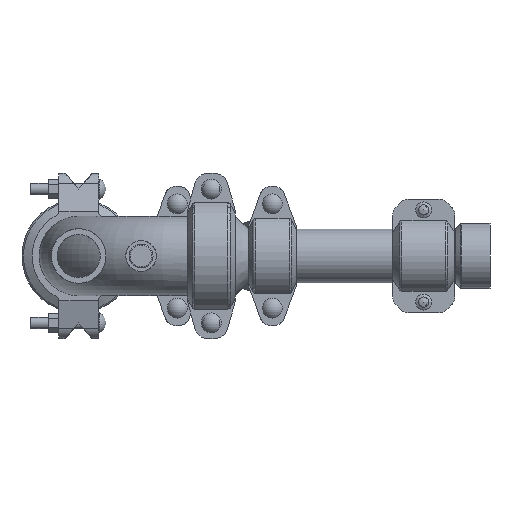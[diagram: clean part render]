
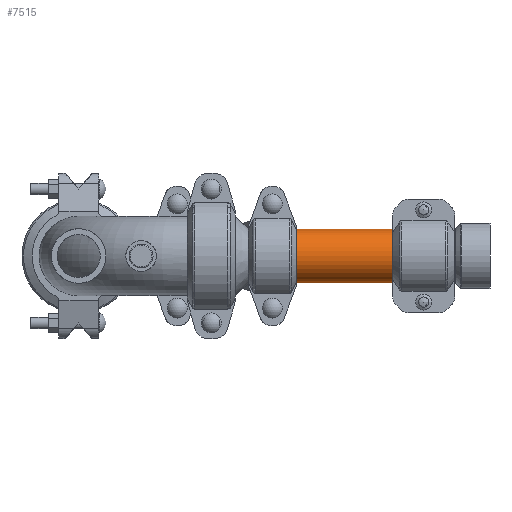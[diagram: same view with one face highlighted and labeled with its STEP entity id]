
A CAD part, front view. The second image highlights one B-rep face of the part: STEP entity #7515.
In plain terms, the highlighted cylindrical face has radius 30.163 mm (diameter 60.325 mm), a full revolution.
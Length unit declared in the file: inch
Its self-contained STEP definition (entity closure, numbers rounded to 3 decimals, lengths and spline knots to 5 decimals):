
#281=LINE('',#11503,#788);
#788=VECTOR('',#9142,1.1875);
#1295=CYLINDRICAL_SURFACE('',#8192,1.1875);
#1527=FACE_OUTER_BOUND('',#1928,.T.);
#1928=EDGE_LOOP('',(#4719,#4720,#4721,#4722,#4723,#4724));
#2419=CIRCLE('',#8190,1.1875);
#2420=CIRCLE('',#8191,1.1875);
#2421=CIRCLE('',#8193,1.1875);
#2422=CIRCLE('',#8194,1.1875);
#2875=VERTEX_POINT('',#11494);
#2876=VERTEX_POINT('',#11495);
#2877=VERTEX_POINT('',#11499);
#2878=VERTEX_POINT('',#11500);
#3620=EDGE_CURVE('',#2875,#2876,#2419,.T.);
#3621=EDGE_CURVE('',#2876,#2875,#2420,.T.);
#3622=EDGE_CURVE('',#2877,#2878,#2421,.T.);
#3623=EDGE_CURVE('',#2878,#2877,#2422,.T.);
#3624=EDGE_CURVE('',#2878,#2876,#281,.T.);
#4719=ORIENTED_EDGE('',*,*,#3622,.F.);
#4720=ORIENTED_EDGE('',*,*,#3623,.F.);
#4721=ORIENTED_EDGE('',*,*,#3624,.T.);
#4722=ORIENTED_EDGE('',*,*,#3621,.T.);
#4723=ORIENTED_EDGE('',*,*,#3620,.T.);
#4724=ORIENTED_EDGE('',*,*,#3624,.F.);
#7515=ADVANCED_FACE('',(#1527),#1295,.T.);
#8190=AXIS2_PLACEMENT_3D('',#11496,#9132,#9133);
#8191=AXIS2_PLACEMENT_3D('',#11497,#9134,#9135);
#8192=AXIS2_PLACEMENT_3D('',#11498,#9136,#9137);
#8193=AXIS2_PLACEMENT_3D('',#11501,#9138,#9139);
#8194=AXIS2_PLACEMENT_3D('',#11502,#9140,#9141);
#9132=DIRECTION('center_axis',(1.,0.,0.));
#9133=DIRECTION('ref_axis',(0.,0.,-1.));
#9134=DIRECTION('center_axis',(1.,0.,0.));
#9135=DIRECTION('ref_axis',(0.,0.,-1.));
#9136=DIRECTION('center_axis',(1.,0.,0.));
#9137=DIRECTION('ref_axis',(0.,1.,0.));
#9138=DIRECTION('center_axis',(1.,0.,0.));
#9139=DIRECTION('ref_axis',(0.,0.,-1.));
#9140=DIRECTION('center_axis',(1.,0.,0.));
#9141=DIRECTION('ref_axis',(0.,0.,-1.));
#9142=DIRECTION('',(-1.,0.,0.));
#11494=CARTESIAN_POINT('',(-2.1085,1.1875,0.));
#11495=CARTESIAN_POINT('',(-2.1085,-1.1875,0.));
#11496=CARTESIAN_POINT('Origin',(-2.1085,0.,0.));
#11497=CARTESIAN_POINT('Origin',(-2.1085,0.,0.));
#11498=CARTESIAN_POINT('Origin',(0.,0.,0.));
#11499=CARTESIAN_POINT('',(2.1085,1.1875,0.));
#11500=CARTESIAN_POINT('',(2.1085,-1.1875,0.));
#11501=CARTESIAN_POINT('Origin',(2.1085,0.,0.));
#11502=CARTESIAN_POINT('Origin',(2.1085,0.,0.));
#11503=CARTESIAN_POINT('',(0.,-1.1875,0.));
